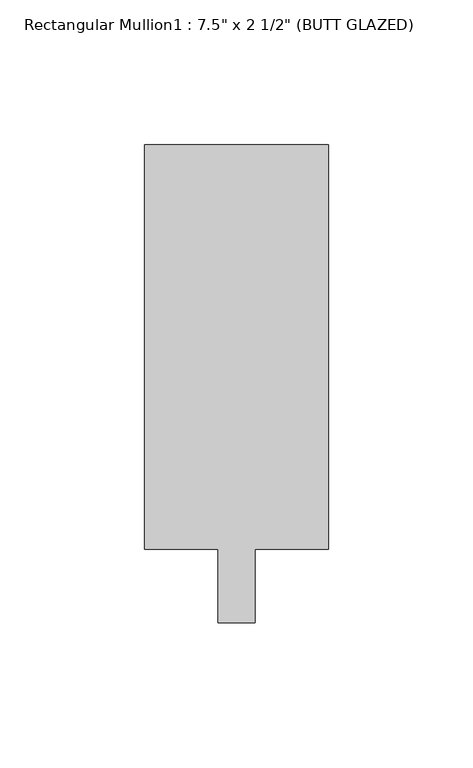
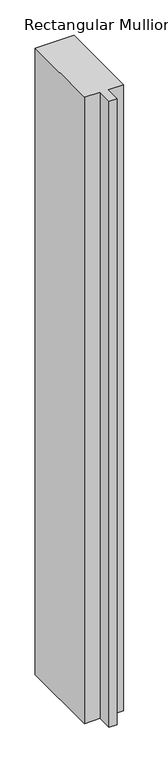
"""IFC4 building model written with IfcOpenShell, lengths in millimetres: member geometry."""

from ifc_helpers import new_model, si_unit, frame, origin, place, context, project, spatial, polyline, outline, extrude, source, transform, mapped, element, save


def member_8999591b(model_context):
    return source(origin(), model_context, "Body", "SweptSolid", [
        extrude(outline(polyline([(31.75, 165.1), (31.75, 25.4), (6.35, 25.4), (6.35, 0.0), (-6.35, 0.0), (-6.35, 25.4), (-31.75, 25.4), (-31.75, 165.1), (31.75, 165.1)])), frame((0.0, 0.0, -1079.5000024), z_axis=(0.0, 0.0, 1.0), x_axis=(1.0, 0.0, 0.0)), (0.0, 0.0, 1.0), 1079.5000024),
    ])


if __name__ == "__main__":
    model = new_model("IFC4")
    model_context = context("Model", 3, world=origin())
    ifc_project = project(units=[si_unit("LENGTHUNIT", "METRE", prefix="MILLI")], contexts=[model_context])
    site = spatial("IfcSite", under=ifc_project)
    building = spatial("IfcBuilding", under=site)
    placement = place(None, origin())
    member_shape = member_8999591b(model_context)
    element("IfcMember", 1, ObjectType="Rectangular Mullion1 : 7.5\" x 2 1/2\" (BUTT GLAZED)", at=placement, inside=building, context=model_context, shape_type="MappedRepresentation", body=[
        mapped(member_shape, transform((0.0, 0.0, 0.0), x_axis=(1.0, 0.0, 0.0), y_axis=(0.0, 1.0, 0.0), z_axis=(0.0, 0.0, 1.0))),
    ])
    save(model, "model.ifc")
